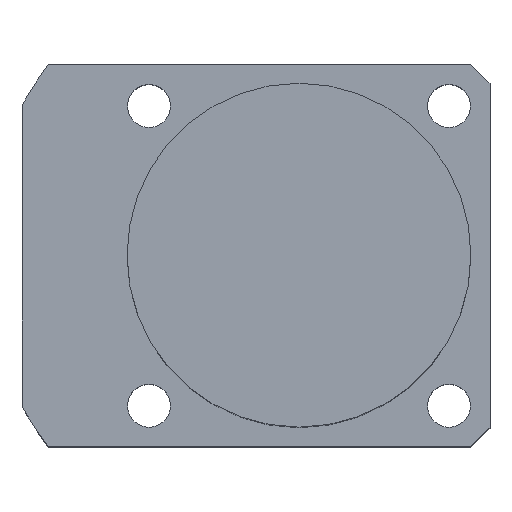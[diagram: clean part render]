
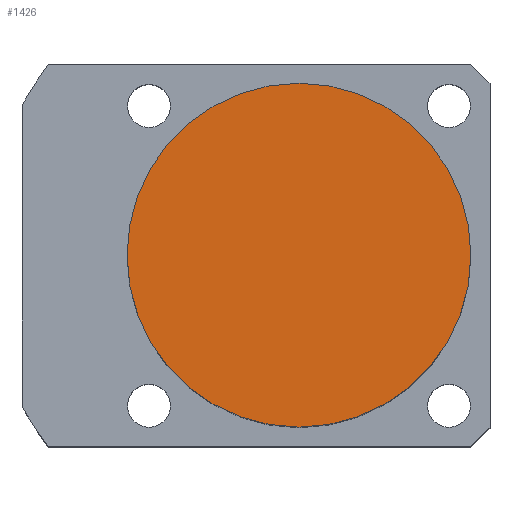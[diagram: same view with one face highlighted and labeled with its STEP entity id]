
A CAD part, top view. The second image highlights one B-rep face of the part: STEP entity #1426.
In plain terms, the highlighted planar face has unit normal (0, 0, 1).
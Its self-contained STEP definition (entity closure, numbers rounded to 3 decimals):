
#1368=CARTESIAN_POINT('',(-0.0,18.0,48.5));
#1369=VERTEX_POINT('',#1368);
#1376=CARTESIAN_POINT('',(18.0,0.0,48.5));
#1377=VERTEX_POINT('',#1376);
#1378=CARTESIAN_POINT('',(0.0,0.0,48.5));
#1379=DIRECTION('',(0.0,0.0,1.0));
#1380=DIRECTION('',(1.0,0.0,0.0));
#1381=AXIS2_PLACEMENT_3D('',#1378,#1379,#1380);
#1382=CIRCLE('',#1381,18.0);
#1383=EDGE_CURVE('no 1777',#1377,#1369,#1382,.T.);
#1385=CARTESIAN_POINT('',(-0.0,-18.0,48.5));
#1386=VERTEX_POINT('',#1385);
#1387=CARTESIAN_POINT('',(0.0,0.0,48.5));
#1388=DIRECTION('',(0.0,0.0,1.0));
#1389=DIRECTION('',(1.0,0.0,0.0));
#1390=AXIS2_PLACEMENT_3D('',#1387,#1388,#1389);
#1391=CIRCLE('',#1390,18.0);
#1392=EDGE_CURVE('no 1783',#1386,#1377,#1391,.T.);
#1410=ORIENTED_EDGE('',*,*,#1383,.T.);
#1411=CARTESIAN_POINT('',(0.0,0.0,48.5));
#1412=DIRECTION('',(0.0,0.0,1.0));
#1413=DIRECTION('',(1.0,0.0,0.0));
#1414=AXIS2_PLACEMENT_3D('',#1411,#1412,#1413);
#1415=CIRCLE('',#1414,18.0);
#1416=EDGE_CURVE('no 1800',#1369,#1386,#1415,.T.);
#1417=ORIENTED_EDGE('',*,*,#1416,.T.);
#1418=ORIENTED_EDGE('',*,*,#1392,.T.);
#1419=EDGE_LOOP('',(#1410,#1417,#1418));
#1420=FACE_OUTER_BOUND('',#1419,.T.);
#1421=CARTESIAN_POINT('',(0.0,0.0,48.5));
#1422=DIRECTION('',(0.0,0.0,1.0));
#1423=DIRECTION('',(1.0,0.0,0.0));
#1424=AXIS2_PLACEMENT_3D('',#1421,#1422,#1423);
#1425=PLANE('',#1424);
#1426=ADVANCED_FACE('no 1793',(#1420),#1425,.T.);
